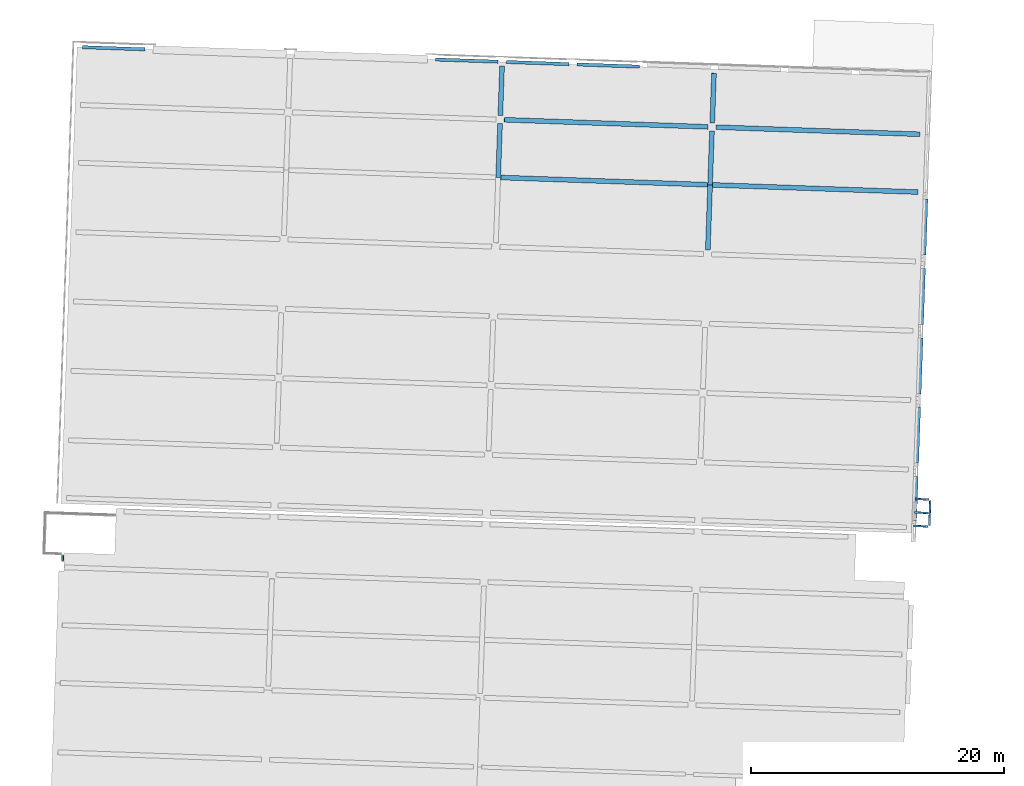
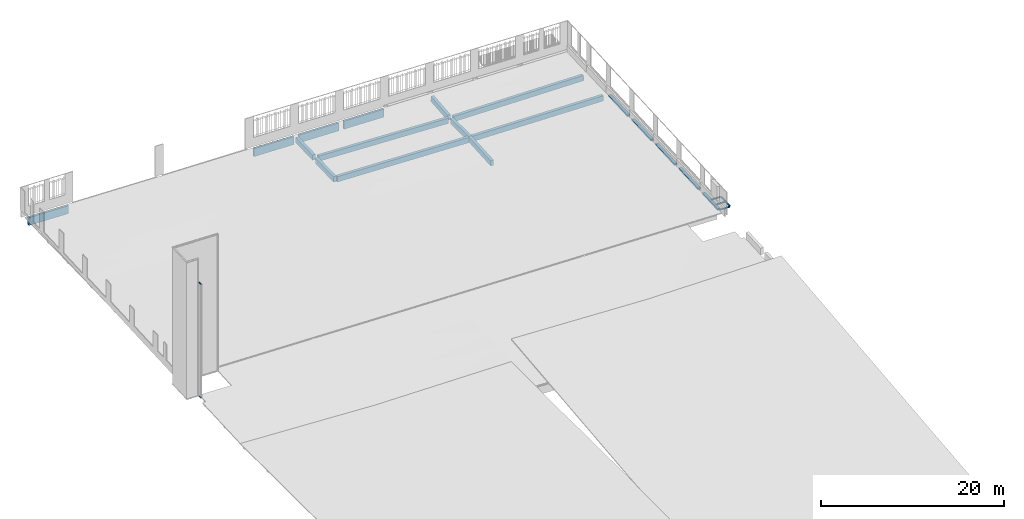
# One storey, part 5 of 17: 22 beams, 2 members, 1 element without a shape of its own.
"""IFC2X3 building model written with IfcOpenShell, lengths in feet."""

from ifc_helpers import new_model, entity, si_unit, converted_unit, derived_unit, direction, frame, frame_2d, origin, origin_2d_with_axis, place, context, subcontext, project, spatial, polyline, circle_curve, parameter, trimmed, segment, composite_curve, rectangle, outline, extrude, clip, halfspace, material, type_object, element, aggregate, save


model = new_model("IFC2X3")

# Units and contexts
model_context = context("Model", 3, precision=0.0001, world=origin(), true_north=direction((0.999390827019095, 0.0348994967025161)))
body_context = subcontext(model_context, "Body", "Model", "MODEL_VIEW")
ifc_project = project(units=[converted_unit("LENGTHUNIT", "FOOT", entity("IfcRatioMeasure", 0.3048), si_unit("LENGTHUNIT", "METRE"), dimensions=[1, 0, 0, 0, 0, 0, 0]), converted_unit("AREAUNIT", "SQUARE FOOT", entity("IfcRatioMeasure", 0.09290304), si_unit("AREAUNIT", "SQUARE_METRE"), dimensions=[2, 0, 0, 0, 0, 0, 0]), converted_unit("VOLUMEUNIT", "CUBIC FOOT", entity("IfcRatioMeasure", 0.028316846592), si_unit("VOLUMEUNIT", "CUBIC_METRE"), dimensions=[3, 0, 0, 0, 0, 0, 0]), converted_unit("PLANEANGLEUNIT", "DEGREE", entity("IfcRatioMeasure", 0.0174532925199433), si_unit("PLANEANGLEUNIT", "RADIAN"), dimensions=[0, 0, 0, 0, 0, 0, 0]), si_unit("MASSUNIT", "GRAM", prefix="KILO"), si_unit("TIMEUNIT", "SECOND"), si_unit("FREQUENCYUNIT", "HERTZ"), si_unit("THERMODYNAMICTEMPERATUREUNIT", "DEGREE_CELSIUS"), derived_unit("THERMALTRANSMITTANCEUNIT", [(si_unit("MASSUNIT", "GRAM", prefix="KILO"), 1), (si_unit("THERMODYNAMICTEMPERATUREUNIT", "KELVIN"), -1), (si_unit("TIMEUNIT", "SECOND"), -3)]), derived_unit("VOLUMETRICFLOWRATEUNIT", [(si_unit("LENGTHUNIT", "METRE"), 3), (si_unit("TIMEUNIT", "SECOND"), -1)]), si_unit("ELECTRICCURRENTUNIT", "AMPERE"), si_unit("ELECTRICVOLTAGEUNIT", "VOLT"), si_unit("POWERUNIT", "WATT"), si_unit("FORCEUNIT", "NEWTON"), si_unit("ILLUMINANCEUNIT", "LUX"), si_unit("LUMINOUSFLUXUNIT", "LUMEN"), si_unit("LUMINOUSINTENSITYUNIT", "CANDELA"), derived_unit("USERDEFINED", [(si_unit("MASSUNIT", "GRAM", prefix="KILO"), -1), (si_unit("LENGTHUNIT", "METRE"), -2), (si_unit("TIMEUNIT", "SECOND"), 3), (si_unit("LUMINOUSFLUXUNIT", "LUMEN"), 1)]), derived_unit("LINEARVELOCITYUNIT", [(si_unit("LENGTHUNIT", "METRE"), 1), (si_unit("TIMEUNIT", "SECOND"), -1)]), si_unit("PRESSUREUNIT", "PASCAL"), derived_unit("USERDEFINED", [(si_unit("LENGTHUNIT", "METRE"), -2), (si_unit("MASSUNIT", "GRAM", prefix="KILO"), 1), (si_unit("TIMEUNIT", "SECOND"), -2)])], contexts=[model_context])

# Site, building, storey
site_placement = place(None, frame((892.518771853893, 322.38689265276, 0.00393700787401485), z_axis=(0.0, 0.0, 1.0), x_axis=(0.0348994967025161, 0.999390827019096, 0.0)))
site = spatial("IfcSite", under=ifc_project, at=site_placement, Name="Default", CompositionType="ELEMENT")
building_placement = place(site_placement, origin())
building = spatial("IfcBuilding", under=site, at=building_placement, CompositionType="ELEMENT")
storey_placement = place(building_placement, frame((0.0, 0.0, 557.0)))
storey = spatial("IfcBuildingStorey", under=building, at=storey_placement, Name="Existing Garage - 1st Level", CompositionType="ELEMENT", Elevation=557.0)

# Curtain wall, members
curtain_wall_type = type_object("IfcCurtainWallType", Name="Curtain Wall:(Existing) Curtainwall - Blank", PredefinedType="NOTDEFINED")
curtain_wall_placement = place(storey_placement, frame((0.0, 0.0, -557.0)))
curtain_wall = element("IfcCurtainWall", 1, at=curtain_wall_placement, inside=storey, type_object=curtain_wall_type, Name="Curtain Wall:(Existing) Curtainwall - Blank", ObjectType="Curtain Wall:(Existing) Curtainwall - Blank")
ifc_material_1 = material(Name="Metal - Aluminum")
member_1_placement = place(curtain_wall_placement, frame((0.0, 0.0, 544.75)))
member_1 = element("IfcMember", 2, at=member_1_placement, material=ifc_material_1, Name="Curtain Wall:(Existing) Curtainwall - Blank", ObjectType="Curtain Wall:(Existing) Curtainwall - Blank", context=body_context, shape_type="SweptSolid", body=[
    extrude(outline(polyline([(-0.136718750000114, -0.187500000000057), (0.0716145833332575, -0.187500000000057), (0.0716145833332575, -0.125000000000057), (-0.00651041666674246, -0.125000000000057), (-0.00651041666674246, 0.0), (0.0716145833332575, 0.0), (0.0716145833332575, 0.312499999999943), (-0.136718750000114, 0.312499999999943), (-0.136718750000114, -0.187500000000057)])), frame((91.0106301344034, 456.243120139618, 62.1132812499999), z_axis=(-1.0, 0.0, 0.0), x_axis=(0.0, 0.0, -1.0)), (0.0, 0.0, 1.0), 1.37500000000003),
])
member_2_placement = place(curtain_wall_placement, frame((0.0, 0.0, 544.75)))
member_2 = element("IfcMember", 3, at=member_2_placement, material=ifc_material_1, Name="Curtain Wall:(Existing) Curtainwall - Blank", ObjectType="Curtain Wall:(Existing) Curtainwall - Blank", context=body_context, shape_type="SweptSolid", body=[
    extrude(outline(polyline([(-0.0716145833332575, -0.312499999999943), (0.136718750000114, -0.312499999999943), (0.136718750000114, 0.187500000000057), (-0.0716145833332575, 0.187500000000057), (-0.0716145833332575, 0.125000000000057), (0.00651041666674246, 0.125000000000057), (0.00651041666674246, 0.0), (-0.0716145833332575, 0.0), (-0.0716145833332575, -0.312499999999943)])), frame((89.6356301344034, 456.243120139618, 12.3867187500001), z_axis=(1.0, 0.0, 0.0), x_axis=(0.0, 0.0, -1.0)), (0.0, 0.0, 1.0), 1.37500000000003),
])
aggregate(curtain_wall, [member_1, member_2])

# Beams
ifc_material_2 = material(Name="Concrete - Precast Concrete - Normal Weight - 5 ksi")
beam_1_placement = place(storey_placement, frame((174.927293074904, 291.763953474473, -3.10667000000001), z_axis=(-0.0133321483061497, 0.0, 0.999911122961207), x_axis=(0.999911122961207, 0.0, 0.0133321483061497)))
element("IfcBeam", 4, at=beam_1_placement, inside=storey, material=ifc_material_2, Name="Precast-Rectangular Beam:15 x 28 (33 w/ 5\" Conc Slab)", ObjectType="Precast-Rectangular Beam:15 x 28 (33 w/ 5\" Conc Slab)", context=body_context, shape_type="Clipping", body=[
    clip(extrude(rectangle(XDim=2.33333333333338, YDim=1.25, at=origin_2d_with_axis()), frame((1.04175555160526, 0.0, -1.16666666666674), z_axis=(1.0, 0.0, 0.0), x_axis=(0.0, 0.0, -1.0)), (0.0, 0.0, 1.0), 16.9598443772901), halfspace(frame((18.0015999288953, 0.0, 0.0), z_axis=(0.999530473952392, 0.0, -0.0306403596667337), x_axis=(0.0306403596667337, 0.0, 0.999530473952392)), False)),
])
beam_2_placement = place(storey_placement, frame((192.927293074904, 291.763953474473, -2.86667), z_axis=(0.0479393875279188, 0.0, 0.998850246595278), x_axis=(0.998850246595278, 0.0, -0.0479393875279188)))
element("IfcBeam", 5, at=beam_2_placement, inside=storey, material=ifc_material_2, Name="Precast-Rectangular Beam:15 x 28 (33 w/ 5\" Conc Slab)", ObjectType="Precast-Rectangular Beam:15 x 28 (33 w/ 5\" Conc Slab)", context=body_context, shape_type="Clipping", body=[
    clip(extrude(rectangle(XDim=2.33333333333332, YDim=1.25, at=frame_2d((-6.66133814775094e-16, 0.0), x_axis=(1.0, 0.0))), frame((0.0, 0.0, -1.16666666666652), z_axis=(1.0, 0.0, 0.0), x_axis=(0.0, 0.0, -1.0)), (0.0, 0.0, 1.0), 13.9744484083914), halfspace(frame((0.0, 0.0, 0.0), z_axis=(-0.999530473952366, 0.0, -0.0306403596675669), x_axis=(-0.0306403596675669, 0.0, 0.999530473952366)), False)),
])
beam_3_placement = place(storey_placement, frame((192.927293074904, 236.763953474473, -2.52666999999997), z_axis=(0.0, 0.00618170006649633, 0.999980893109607), x_axis=(0.0, 0.999980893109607, -0.00618170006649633)))
element("IfcBeam", 6, at=beam_3_placement, inside=storey, material=ifc_material_2, Name="Precast-Rectangular Beam:15 x 28 (33 w/ 5\" Conc Slab)", ObjectType="Precast-Rectangular Beam:15 x 28 (33 w/ 5\" Conc Slab)", context=body_context, shape_type="SweptSolid", body=[
    extrude(rectangle(XDim=2.33333333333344, YDim=1.25, at=frame_2d((5.6843418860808e-14, -1.4210854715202e-14), x_axis=(1.0, 0.0))), frame((1.05611001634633, 0.0, -1.16666666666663), z_axis=(1.0, 0.0, 0.0), x_axis=(0.0, 0.0, -1.0)), (0.0, 0.0, 1.0), 53.2782861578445),
])
beam_4_placement = place(storey_placement, frame((192.927293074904, 346.763953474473, -2.52666999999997), z_axis=(0.0226608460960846, 0.0, 0.999743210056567), x_axis=(0.999743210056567, 0.0, -0.0226608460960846)))
element("IfcBeam", 7, at=beam_4_placement, inside=storey, material=ifc_material_2, Name="Precast-Rectangular Beam:15 x 28 (33 w/ 5\" Conc Slab)", ObjectType="Precast-Rectangular Beam:15 x 28 (33 w/ 5\" Conc Slab)", context=body_context, shape_type="SweptSolid", body=[
    extrude(rectangle(XDim=2.33333333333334, YDim=1.25, at=frame_2d((-5.6843418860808e-14, 0.0), x_axis=(1.0, 0.0))), frame((0.0, 0.0, -1.16666666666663), z_axis=(1.0, 0.0, 0.0), x_axis=(0.0, 0.0, -1.0)), (0.0, 0.0, 1.0), 13.9619293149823),
])
beam_5_placement = place(storey_placement, frame((192.927293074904, 346.763953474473, -2.52666999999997), z_axis=(0.0, -0.00618170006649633, 0.999980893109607), x_axis=(0.0, -0.999980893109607, -0.00618170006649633)))
element("IfcBeam", 8, at=beam_5_placement, inside=storey, material=ifc_material_2, Name="Precast-Rectangular Beam:15 x 28 (33 w/ 5\" Conc Slab)", ObjectType="Precast-Rectangular Beam:15 x 28 (33 w/ 5\" Conc Slab)", context=body_context, shape_type="SweptSolid", body=[
    extrude(rectangle(XDim=2.33333333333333, YDim=1.25000000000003, at=frame_2d((5.6843418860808e-14, 4.2632564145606e-14), x_axis=(1.0, 0.0))), frame((0.681169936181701, 0.0, -1.16666666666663), z_axis=(1.0, 0.0, 0.0), x_axis=(0.0, 0.0, -1.0)), (0.0, 0.0, 1.0), 53.653226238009),
])
beam_6_placement = place(storey_placement, frame((207.927293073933, 236.763953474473, -2.86667), z_axis=(0.0, 0.0130897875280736, 0.999914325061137), x_axis=(0.0, 0.999914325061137, -0.0130897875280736)))
element("IfcBeam", 9, at=beam_6_placement, inside=storey, material=ifc_material_2, Name="Precast-Rectangular Beam:15 x 28 (33 w/ 5\" Conc Slab)", ObjectType="Precast-Rectangular Beam:15 x 28 (33 w/ 5\" Conc Slab)", context=body_context, shape_type="SweptSolid", body=[
    extrude(rectangle(XDim=2.33333333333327, YDim=1.25, at=origin_2d_with_axis()), frame((1.07229780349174, 0.0, -1.16666666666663), z_axis=(1.0, 0.0, 0.0), x_axis=(0.0, 0.0, -1.0)), (0.0, 0.0, 1.0), 52.8906623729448),
])
beam_7_placement = place(storey_placement, frame((207.927293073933, 346.763953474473, -2.86667), z_axis=(0.0, -0.0130897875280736, 0.999914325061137), x_axis=(0.0, -0.999914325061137, -0.0130897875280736)))
element("IfcBeam", 10, at=beam_7_placement, inside=storey, material=ifc_material_2, Name="Precast-Rectangular Beam:15 x 28 (33 w/ 5\" Conc Slab)", ObjectType="Precast-Rectangular Beam:15 x 28 (33 w/ 5\" Conc Slab)", context=body_context, shape_type="SweptSolid", body=[
    extrude(rectangle(XDim=2.33333333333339, YDim=1.25000000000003, at=frame_2d((4.44089209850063e-16, 1.4210854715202e-14), x_axis=(1.0, 0.0))), frame((1.0722978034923, 0.0, -1.16666666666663), z_axis=(1.0, 0.0, 0.0), x_axis=(0.0, 0.0, -1.0)), (0.0, 0.0, 1.0), 52.8906623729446),
])
beam_8_placement = place(storey_placement, frame((222.927293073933, 310.097286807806, -3.02666999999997), z_axis=(0.0, 0.0, 1.0), x_axis=(0.0, 1.0, 0.0)))
element("IfcBeam", 11, at=beam_8_placement, inside=storey, material=ifc_material_2, Name="Precast-Rectangular Beam:10 x 42", ObjectType="Precast-Rectangular Beam:10 x 42", context=body_context, shape_type="SweptSolid", body=[
    extrude(rectangle(XDim=3.5, YDim=0.833333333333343, at=frame_2d((0.0, -1.4210854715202e-14), x_axis=(1.0, 0.0))), frame((1.04166666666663, 0.0, -1.75), z_axis=(1.0, 0.0, 0.0), x_axis=(0.0, 0.0, -1.0)), (0.0, 0.0, 1.0), 16.25),
])
beam_9_placement = place(storey_placement, frame((222.927293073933, 346.763953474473, -3.02666999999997), z_axis=(0.0, 0.0, 1.0), x_axis=(0.0, -1.0, 0.0)))
element("IfcBeam", 12, at=beam_9_placement, inside=storey, material=ifc_material_2, Name="Precast-Rectangular Beam:10 x 42", ObjectType="Precast-Rectangular Beam:10 x 42", context=body_context, shape_type="SweptSolid", body=[
    extrude(rectangle(XDim=3.5, YDim=0.833333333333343, at=frame_2d((0.0, 1.4210854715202e-14), x_axis=(1.0, 0.0))), frame((1.04166666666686, 0.0, -1.75), z_axis=(1.0, 0.0, 0.0), x_axis=(0.0, 0.0, -1.0)), (0.0, 0.0, 1.0), 16.2500000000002),
])
beam_10_placement = place(storey_placement, frame((222.927293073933, 346.763953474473, -3.02666999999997), z_axis=(0.0, 0.0, 1.0), x_axis=(0.0, 1.0, 0.0)))
element("IfcBeam", 13, at=beam_10_placement, inside=storey, material=ifc_material_2, Name="Precast-Rectangular Beam:10 x 42", ObjectType="Precast-Rectangular Beam:10 x 42", context=body_context, shape_type="SweptSolid", body=[
    extrude(rectangle(XDim=3.5, YDim=0.833333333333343, at=frame_2d((0.0, 1.4210854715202e-14), x_axis=(1.0, 0.0))), frame((1.04166666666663, 0.0, -1.75), z_axis=(1.0, 0.0, 0.0), x_axis=(0.0, 0.0, -1.0)), (0.0, 0.0, 1.0), 16.25),
])
beam_11_placement = place(storey_placement, frame((207.927293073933, 291.763953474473, -3.58667000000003), z_axis=(-0.0373073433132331, 0.0, 0.999303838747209), x_axis=(0.999303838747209, 0.0, 0.0373073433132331)))
element("IfcBeam", 14, at=beam_11_placement, inside=storey, material=ifc_material_2, Name="Precast-Rectangular Beam:15 x 28 (33 w/ 5\" Conc Slab)", ObjectType="Precast-Rectangular Beam:15 x 28 (33 w/ 5\" Conc Slab)", context=body_context, shape_type="SweptSolid", body=[
    extrude(rectangle(XDim=2.33333333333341, YDim=1.25, at=origin_2d_with_axis()), frame((1.04236331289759, 0.0, -1.16666666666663), z_axis=(1.0, 0.0, 0.0), x_axis=(0.0, 0.0, -1.0)), (0.0, 0.0, 1.0), 12.8386119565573),
])
beam_12_placement = place(storey_placement, frame((222.927293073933, 438.430620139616, -3.16666999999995), z_axis=(0.0, -0.00272726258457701, 0.999996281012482), x_axis=(0.0, 0.999996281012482, 0.00272726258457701)))
element("IfcBeam", 15, at=beam_12_placement, inside=storey, material=ifc_material_2, Name="Precast-Rectangular Beam:10 x 42", ObjectType="Precast-Rectangular Beam:10 x 42", context=body_context, shape_type="SweptSolid", body=[
    extrude(rectangle(XDim=3.50000000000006, YDim=0.833333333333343, at=frame_2d((1.11022302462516e-16, 1.4210854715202e-14), x_axis=(1.0, 0.0))), frame((1.04167038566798, 0.0, -1.75), z_axis=(1.0, 0.0, 0.0), x_axis=(0.0, 0.0, -1.0)), (0.0, 0.0, 1.0), 16.2405152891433),
])
beam_13_placement = place(storey_placement, frame((222.927293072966, 346.763953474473, -3.11667), z_axis=(0.0166643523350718, 0.0, 0.999861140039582), x_axis=(-0.999861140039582, 0.0, 0.0166643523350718)))
element("IfcBeam", 16, at=beam_13_placement, inside=storey, material=ifc_material_2, Name="Precast-Rectangular Beam:15 x 28 (33 w/ 5\" Conc Slab)", ObjectType="Precast-Rectangular Beam:15 x 28 (33 w/ 5\" Conc Slab)", context=body_context, shape_type="SweptSolid", body=[
    extrude(rectangle(XDim=2.33333333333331, YDim=1.25, at=frame_2d((-5.6843418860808e-14, 0.0), x_axis=(1.0, 0.0))), frame((1.04180554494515, 0.0, -1.16666666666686), z_axis=(1.0, 0.0, 0.0), x_axis=(0.0, 0.0, -1.0)), (0.0, 0.0, 1.0), 12.8795832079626),
])
ifc_material_3 = material(Name="Metal - Steel - ASTM A500 - Grade B - Rectangular and Square")
beam_14_placement = place(storey_placement, frame((106.343959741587, 231.847286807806, 0.291666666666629), z_axis=(0.0, 0.0, 1.0), x_axis=(0.0, 1.0, 0.0)))
element("IfcBeam", 17, at=beam_14_placement, inside=storey, material=ifc_material_3, Name="05_HSS-Hollow Structural Section:HSS6x6x5/16", ObjectType="05_HSS-Hollow Structural Section:HSS6x6x5/16", context=body_context, shape_type="SweptSolid", body=[
    extrude(outline(composite_curve([segment(trimmed(circle_curve(frame_2d((-0.20150000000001, -0.20150000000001), x_axis=(1.0, 0.0)), 0.0485), [parameter(180.0)], [parameter(270.0)], True, "PARAMETER"), True, "CONTINUOUS"), segment(polyline([(-0.20150000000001, -0.25), (0.201499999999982, -0.25)]), True, "CONTINUOUS"), segment(trimmed(circle_curve(frame_2d((0.201499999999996, -0.20150000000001), x_axis=(1.0, 0.0)), 0.0485), [parameter(270.0)], [parameter(1.52666624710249e-13)], True, "PARAMETER"), True, "CONTINUOUS"), segment(polyline([(0.249999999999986, -0.20150000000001), (0.249999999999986, 0.20150000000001)]), True, "CONTINUOUS"), segment(trimmed(circle_curve(frame_2d((0.201499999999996, 0.20150000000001), x_axis=(1.0, 0.0)), 0.0485), [parameter(360.0)], [parameter(89.9999999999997)], True, "PARAMETER"), True, "CONTINUOUS"), segment(polyline([(0.201499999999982, 0.25), (-0.20150000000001, 0.25)]), True, "CONTINUOUS"), segment(trimmed(circle_curve(frame_2d((-0.20150000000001, 0.20150000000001), x_axis=(1.0, 0.0)), 0.0485), [parameter(90.0000000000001)], [parameter(180.0)], True, "PARAMETER"), True, "CONTINUOUS"), segment(polyline([(-0.250000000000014, 0.20150000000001), (-0.250000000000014, -0.20150000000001)]), True, "CONTINUOUS")], self_intersect=False), holes=[composite_curve([segment(polyline([(0.201499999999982, -0.225749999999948), (-0.20150000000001, -0.225749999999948)]), True, "CONTINUOUS"), segment(trimmed(circle_curve(frame_2d((-0.20150000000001, -0.20150000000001), x_axis=(1.0, 0.0)), 0.02425), [parameter(180.0)], [parameter(270.0)], True, "PARAMETER"), False, "CONTINUOUS"), segment(polyline([(-0.225750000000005, -0.20150000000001), (-0.225750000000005, 0.20150000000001)]), True, "CONTINUOUS"), segment(trimmed(circle_curve(frame_2d((-0.20150000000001, 0.20150000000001), x_axis=(1.0, 0.0)), 0.02425), [parameter(90.0000000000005)], [parameter(180.0)], True, "PARAMETER"), False, "CONTINUOUS"), segment(polyline([(-0.20150000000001, 0.225750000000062), (0.201499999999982, 0.225750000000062)]), True, "CONTINUOUS"), segment(trimmed(circle_curve(frame_2d((0.201499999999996, 0.20150000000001), x_axis=(1.0, 0.0)), 0.02425), [parameter(0.0)], [parameter(90.0000000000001)], True, "PARAMETER"), False, "CONTINUOUS"), segment(polyline([(0.225749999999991, 0.20150000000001), (0.225749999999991, -0.20150000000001)]), True, "CONTINUOUS"), segment(trimmed(circle_curve(frame_2d((0.201499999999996, -0.20150000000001), x_axis=(1.0, 0.0)), 0.02425), [parameter(270.0)], [parameter(4.07110999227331e-13)], True, "PARAMETER"), False, "CONTINUOUS")], self_intersect=False)]), frame((0.291666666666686, 0.0, -0.25), z_axis=(1.0, 0.0, 0.0), x_axis=(0.0, -1.0, 0.0)), (0.0, 0.0, 1.0), 3.86771738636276),
])
beam_15_placement = place(storey_placement, frame((113.343963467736, 231.847286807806, 0.291666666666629), z_axis=(0.0, 0.0, 1.0), x_axis=(0.0, 1.0, 0.0)))
element("IfcBeam", 18, at=beam_15_placement, inside=storey, material=ifc_material_3, Name="05_HSS-Hollow Structural Section:HSS6x6x5/16", ObjectType="05_HSS-Hollow Structural Section:HSS6x6x5/16", context=body_context, shape_type="SweptSolid", body=[
    extrude(outline(composite_curve([segment(trimmed(circle_curve(frame_2d((-0.201499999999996, -0.20150000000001), x_axis=(1.0, 0.0)), 0.0485), [parameter(180.0)], [parameter(270.0)], True, "PARAMETER"), True, "CONTINUOUS"), segment(polyline([(-0.201499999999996, -0.25), (0.201499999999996, -0.25)]), True, "CONTINUOUS"), segment(trimmed(circle_curve(frame_2d((0.20150000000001, -0.20150000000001), x_axis=(1.0, 0.0)), 0.0485), [parameter(270.0)], [parameter(1.52666624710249e-13)], True, "PARAMETER"), True, "CONTINUOUS"), segment(polyline([(0.25, -0.20150000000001), (0.25, 0.20150000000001)]), True, "CONTINUOUS"), segment(trimmed(circle_curve(frame_2d((0.20150000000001, 0.20150000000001), x_axis=(1.0, 0.0)), 0.0485), [parameter(360.0)], [parameter(89.9999999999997)], True, "PARAMETER"), True, "CONTINUOUS"), segment(polyline([(0.201499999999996, 0.25), (-0.201499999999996, 0.25)]), True, "CONTINUOUS"), segment(trimmed(circle_curve(frame_2d((-0.201499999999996, 0.20150000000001), x_axis=(1.0, 0.0)), 0.0485), [parameter(90.0000000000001)], [parameter(180.0)], True, "PARAMETER"), True, "CONTINUOUS"), segment(polyline([(-0.25, 0.20150000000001), (-0.25, -0.20150000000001)]), True, "CONTINUOUS")], self_intersect=False), holes=[composite_curve([segment(polyline([(0.201499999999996, -0.225749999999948), (-0.201499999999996, -0.225749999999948)]), True, "CONTINUOUS"), segment(trimmed(circle_curve(frame_2d((-0.201499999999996, -0.20150000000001), x_axis=(1.0, 0.0)), 0.02425), [parameter(180.0)], [parameter(270.0)], True, "PARAMETER"), False, "CONTINUOUS"), segment(polyline([(-0.225749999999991, -0.20150000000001), (-0.225749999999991, 0.20150000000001)]), True, "CONTINUOUS"), segment(trimmed(circle_curve(frame_2d((-0.201499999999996, 0.20150000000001), x_axis=(1.0, 0.0)), 0.02425), [parameter(90.0000000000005)], [parameter(180.0)], True, "PARAMETER"), False, "CONTINUOUS"), segment(polyline([(-0.201499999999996, 0.225750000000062), (0.201499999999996, 0.225750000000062)]), True, "CONTINUOUS"), segment(trimmed(circle_curve(frame_2d((0.20150000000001, 0.20150000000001), x_axis=(1.0, 0.0)), 0.02425), [parameter(0.0)], [parameter(90.0000000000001)], True, "PARAMETER"), False, "CONTINUOUS"), segment(polyline([(0.225750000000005, 0.20150000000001), (0.225750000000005, -0.20150000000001)]), True, "CONTINUOUS"), segment(trimmed(circle_curve(frame_2d((0.20150000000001, -0.20150000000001), x_axis=(1.0, 0.0)), 0.02425), [parameter(270.0)], [parameter(4.07110999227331e-13)], True, "PARAMETER"), False, "CONTINUOUS")], self_intersect=False)]), frame((0.291666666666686, 0.0, -0.25), z_axis=(1.0, 0.0, 0.0), x_axis=(0.0, -1.0, 0.0)), (0.0, 0.0, 1.0), 3.61954250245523),
])
beam_16_placement = place(storey_placement, frame((113.343963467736, 231.847286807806, 0.291666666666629), z_axis=(0.0, 0.0, 1.0), x_axis=(-1.0, 0.0, 0.0)))
element("IfcBeam", 19, at=beam_16_placement, inside=storey, material=ifc_material_3, Name="05_HSS-Hollow Structural Section:HSS6x6x5/16", ObjectType="05_HSS-Hollow Structural Section:HSS6x6x5/16", context=body_context, shape_type="SweptSolid", body=[
    extrude(outline(composite_curve([segment(trimmed(circle_curve(frame_2d((-0.201500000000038, -0.20150000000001), x_axis=(1.0, 0.0)), 0.0485), [parameter(180.0)], [parameter(270.0)], True, "PARAMETER"), True, "CONTINUOUS"), segment(polyline([(-0.201500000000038, -0.25), (0.201499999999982, -0.25)]), True, "CONTINUOUS"), segment(trimmed(circle_curve(frame_2d((0.201499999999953, -0.20150000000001), x_axis=(1.0, 0.0)), 0.0485), [parameter(270.0)], [parameter(1.52666624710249e-13)], True, "PARAMETER"), True, "CONTINUOUS"), segment(polyline([(0.249999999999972, -0.20150000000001), (0.249999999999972, 0.20150000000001)]), True, "CONTINUOUS"), segment(trimmed(circle_curve(frame_2d((0.201499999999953, 0.20150000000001), x_axis=(1.0, 0.0)), 0.0485), [parameter(360.0)], [parameter(89.9999999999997)], True, "PARAMETER"), True, "CONTINUOUS"), segment(polyline([(0.201499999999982, 0.25), (-0.201500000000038, 0.25)]), True, "CONTINUOUS"), segment(trimmed(circle_curve(frame_2d((-0.201500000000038, 0.20150000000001), x_axis=(1.0, 0.0)), 0.0485), [parameter(90.0000000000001)], [parameter(180.0)], True, "PARAMETER"), True, "CONTINUOUS"), segment(polyline([(-0.250000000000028, 0.20150000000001), (-0.250000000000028, -0.20150000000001)]), True, "CONTINUOUS")], self_intersect=False), holes=[composite_curve([segment(polyline([(0.201499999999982, -0.225749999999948), (-0.201500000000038, -0.225749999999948)]), True, "CONTINUOUS"), segment(trimmed(circle_curve(frame_2d((-0.201500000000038, -0.20150000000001), x_axis=(1.0, 0.0)), 0.02425), [parameter(180.0)], [parameter(270.0)], True, "PARAMETER"), False, "CONTINUOUS"), segment(polyline([(-0.225750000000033, -0.20150000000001), (-0.225750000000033, 0.20150000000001)]), True, "CONTINUOUS"), segment(trimmed(circle_curve(frame_2d((-0.201500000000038, 0.20150000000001), x_axis=(1.0, 0.0)), 0.02425), [parameter(90.0000000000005)], [parameter(180.0)], True, "PARAMETER"), False, "CONTINUOUS"), segment(polyline([(-0.201500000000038, 0.225750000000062), (0.201499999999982, 0.225750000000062)]), True, "CONTINUOUS"), segment(trimmed(circle_curve(frame_2d((0.201499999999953, 0.20150000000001), x_axis=(1.0, 0.0)), 0.02425), [parameter(0.0)], [parameter(90.0000000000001)], True, "PARAMETER"), False, "CONTINUOUS"), segment(polyline([(0.225749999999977, 0.20150000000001), (0.225749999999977, -0.20150000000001)]), True, "CONTINUOUS"), segment(trimmed(circle_curve(frame_2d((0.201499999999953, -0.20150000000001), x_axis=(1.0, 0.0)), 0.02425), [parameter(270.0)], [parameter(4.07110999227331e-13)], True, "PARAMETER"), False, "CONTINUOUS")], self_intersect=False)]), frame((0.291666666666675, 0.0, -0.25), z_axis=(1.0, 0.0, 0.0), x_axis=(0.0, -1.0, 0.0)), (0.0, 0.0, 1.0), 6.41667039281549),
])
ifc_material_4 = material(Name="Concrete - Cast-in-Place Concrete")
beam_17_placement = place(storey_placement, frame((119.177293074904, 235.805620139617, -0.385416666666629), z_axis=(0.0, 0.0, 1.0), x_axis=(-1.0, 0.0, 0.0)))
element("IfcBeam", 20, at=beam_17_placement, inside=storey, material=ifc_material_4, Name="Concrete-Rectangular Beam:8\" x 15\"w", ObjectType="Concrete-Rectangular Beam:8\" x 15\"w", context=body_context, shape_type="SweptSolid", body=[
    extrude(rectangle(XDim=0.666666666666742, YDim=1.25, at=frame_2d((0.0, 5.6843418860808e-14), x_axis=(1.0, 0.0))), frame((0.0, 0.0, -0.333333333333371), z_axis=(1.0, 0.0, 0.0), x_axis=(0.0, 0.0, -1.0)), (0.0, 0.0, 1.0), 11.4999999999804),
])
beam_18_placement = place(storey_placement, frame((122.677293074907, 235.805620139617, -0.614583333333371)))
element("IfcBeam", 21, at=beam_18_placement, inside=storey, material=ifc_material_4, Name="Concrete-Rectangular Beam:8\" x 15\"w", ObjectType="Concrete-Rectangular Beam:8\" x 15\"w", context=body_context, shape_type="SweptSolid", body=[
    extrude(rectangle(XDim=0.666666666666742, YDim=1.25, at=frame_2d((0.0, 5.6843418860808e-14), x_axis=(1.0, 0.0))), frame((0.0, 0.0, -0.333333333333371), z_axis=(1.0, 0.0, 0.0), x_axis=(0.0, 0.0, -1.0)), (0.0, 0.0, 1.0), 14.5),
])
beam_19_placement = place(storey_placement, frame((155.177293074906, 235.805620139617, -1.05208333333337), z_axis=(0.0, 0.0, 1.0), x_axis=(-1.0, 0.0, 0.0)))
element("IfcBeam", 22, at=beam_19_placement, inside=storey, material=ifc_material_4, Name="Concrete-Rectangular Beam:8\" x 15\"w", ObjectType="Concrete-Rectangular Beam:8\" x 15\"w", context=body_context, shape_type="SweptSolid", body=[
    extrude(rectangle(XDim=0.666666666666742, YDim=1.25, at=frame_2d((0.0, 5.6843418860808e-14), x_axis=(1.0, 0.0))), frame((0.0, 0.0, -0.333333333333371), z_axis=(1.0, 0.0, 0.0), x_axis=(0.0, 0.0, -1.0)), (0.0, 0.0, 1.0), 14.5),
])
beam_20_placement = place(storey_placement, frame((158.677293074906, 235.805620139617, -1.5)))
element("IfcBeam", 23, at=beam_20_placement, inside=storey, material=ifc_material_4, Name="Concrete-Rectangular Beam:8\" x 15\"w", ObjectType="Concrete-Rectangular Beam:8\" x 15\"w", context=body_context, shape_type="SweptSolid", body=[
    extrude(rectangle(XDim=0.666666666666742, YDim=1.25, at=frame_2d((0.0, 5.6843418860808e-14), x_axis=(1.0, 0.0))), frame((0.0, 0.0, -0.333333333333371), z_axis=(1.0, 0.0, 0.0), x_axis=(0.0, 0.0, -1.0)), (0.0, 0.0, 1.0), 14.5),
])
beam_21_placement = place(storey_placement, frame((191.177293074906, 235.805620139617, -1.9375), z_axis=(0.0, 0.0, 1.0), x_axis=(-1.0, 0.0, 0.0)))
element("IfcBeam", 24, at=beam_21_placement, inside=storey, material=ifc_material_4, Name="Concrete-Rectangular Beam:8\" x 15\"w", ObjectType="Concrete-Rectangular Beam:8\" x 15\"w", context=body_context, shape_type="SweptSolid", body=[
    extrude(rectangle(XDim=0.666666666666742, YDim=1.25, at=frame_2d((0.0, 5.6843418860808e-14), x_axis=(1.0, 0.0))), frame((0.0, 0.0, -0.333333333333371), z_axis=(1.0, 0.0, 0.0), x_axis=(0.0, 0.0, -1.0)), (0.0, 0.0, 1.0), 14.5),
])
beam_22_placement = place(storey_placement, frame((109.843961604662, 231.847286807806, 0.291666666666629), z_axis=(0.0, 0.0, 1.0), x_axis=(0.0, 1.0, 0.0)))
element("IfcBeam", 25, at=beam_22_placement, inside=storey, material=ifc_material_3, Name="05_HSS-Hollow Structural Section:HSS6x6x5/16", ObjectType="05_HSS-Hollow Structural Section:HSS6x6x5/16", context=body_context, shape_type="SweptSolid", body=[
    extrude(outline(composite_curve([segment(trimmed(circle_curve(frame_2d((-0.201499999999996, -0.20150000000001), x_axis=(1.0, 0.0)), 0.0485), [parameter(180.0)], [parameter(270.0)], True, "PARAMETER"), True, "CONTINUOUS"), segment(polyline([(-0.201499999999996, -0.25), (0.201499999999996, -0.25)]), True, "CONTINUOUS"), segment(trimmed(circle_curve(frame_2d((0.20150000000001, -0.20150000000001), x_axis=(1.0, 0.0)), 0.0485), [parameter(270.0)], [parameter(1.52666624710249e-13)], True, "PARAMETER"), True, "CONTINUOUS"), segment(polyline([(0.25, -0.20150000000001), (0.25, 0.20150000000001)]), True, "CONTINUOUS"), segment(trimmed(circle_curve(frame_2d((0.20150000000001, 0.20150000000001), x_axis=(1.0, 0.0)), 0.0485), [parameter(360.0)], [parameter(89.9999999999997)], True, "PARAMETER"), True, "CONTINUOUS"), segment(polyline([(0.201499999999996, 0.25), (-0.201499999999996, 0.25)]), True, "CONTINUOUS"), segment(trimmed(circle_curve(frame_2d((-0.201499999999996, 0.20150000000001), x_axis=(1.0, 0.0)), 0.0485), [parameter(90.0000000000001)], [parameter(180.0)], True, "PARAMETER"), True, "CONTINUOUS"), segment(polyline([(-0.25, 0.20150000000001), (-0.25, -0.20150000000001)]), True, "CONTINUOUS")], self_intersect=False), holes=[composite_curve([segment(polyline([(0.201499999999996, -0.225749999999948), (-0.201499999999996, -0.225749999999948)]), True, "CONTINUOUS"), segment(trimmed(circle_curve(frame_2d((-0.201499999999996, -0.20150000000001), x_axis=(1.0, 0.0)), 0.02425), [parameter(180.0)], [parameter(270.0)], True, "PARAMETER"), False, "CONTINUOUS"), segment(polyline([(-0.225749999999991, -0.20150000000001), (-0.225749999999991, 0.20150000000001)]), True, "CONTINUOUS"), segment(trimmed(circle_curve(frame_2d((-0.201499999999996, 0.20150000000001), x_axis=(1.0, 0.0)), 0.02425), [parameter(90.0000000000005)], [parameter(180.0)], True, "PARAMETER"), False, "CONTINUOUS"), segment(polyline([(-0.201499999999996, 0.225750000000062), (0.201499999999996, 0.225750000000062)]), True, "CONTINUOUS"), segment(trimmed(circle_curve(frame_2d((0.20150000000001, 0.20150000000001), x_axis=(1.0, 0.0)), 0.02425), [parameter(0.0)], [parameter(90.0000000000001)], True, "PARAMETER"), False, "CONTINUOUS"), segment(polyline([(0.225750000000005, 0.20150000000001), (0.225750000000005, -0.20150000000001)]), True, "CONTINUOUS"), segment(trimmed(circle_curve(frame_2d((0.20150000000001, -0.20150000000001), x_axis=(1.0, 0.0)), 0.02425), [parameter(270.0)], [parameter(4.07110999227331e-13)], True, "PARAMETER"), False, "CONTINUOUS")], self_intersect=False)]), frame((0.291666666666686, 0.0, -0.25), z_axis=(1.0, 0.0, 0.0), x_axis=(0.0, -1.0, 0.0)), (0.0, 0.0, 1.0), 3.61954250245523),
])

save(model, "model.ifc")
